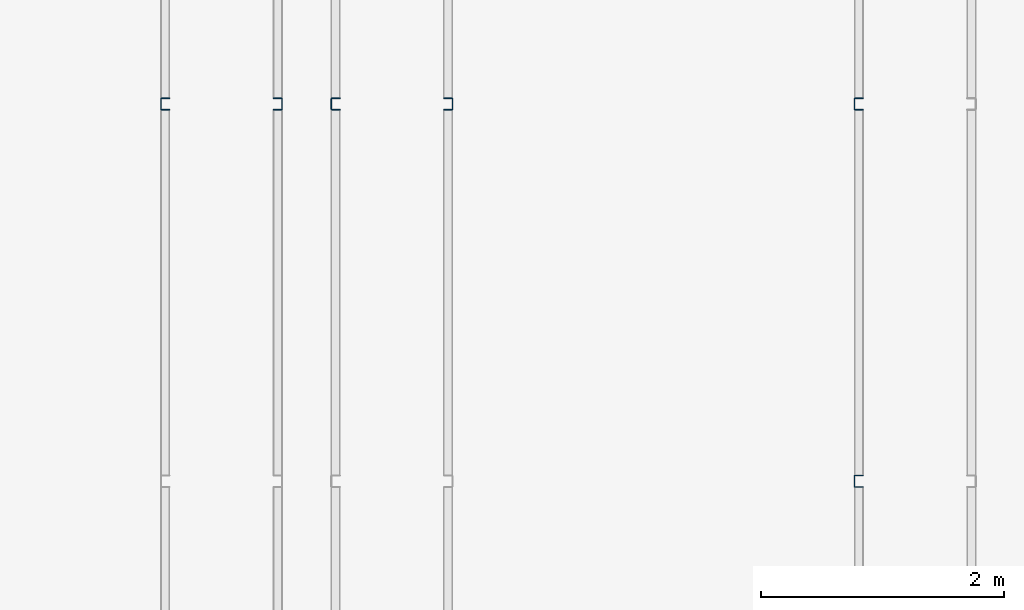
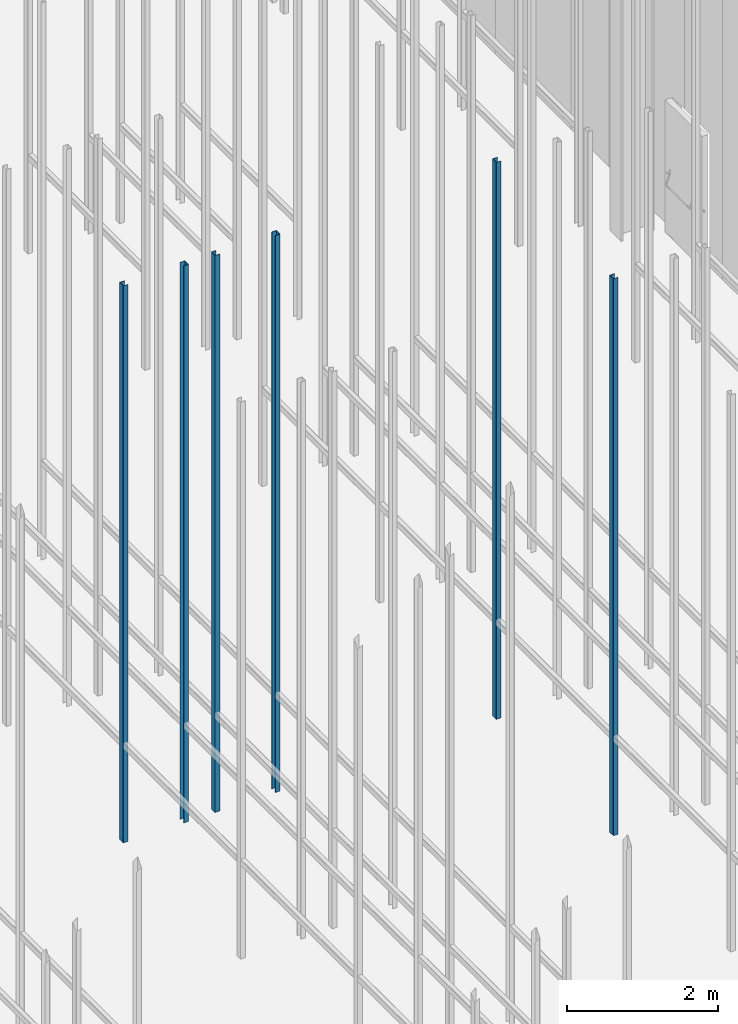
# One storey, part 25 of 302: 6 columns.
"""IFC2X3 building model written with IfcOpenShell, lengths in metres."""

from ifc_helpers import new_model, entity, si_unit, converted_unit, derived_unit, direction, frame, frame_2d, origin, place, context, subcontext, project, spatial, polyline, circle_curve, parameter, trimmed, segment, composite_curve, outline, extrude, source, transform, mapped, material, type_object, type_shapes, element, save


model = new_model("IFC2X3")

# Units and contexts
model_context = context("Model", 3, precision=1e-05, world=origin(), true_north=direction((6.12303176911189e-17, 1.0)))
body_context = subcontext(model_context, "Body", "Model", "MODEL_VIEW")
ifc_project = project(units=[si_unit("LENGTHUNIT", "METRE"), si_unit("AREAUNIT", "SQUARE_METRE"), si_unit("VOLUMEUNIT", "CUBIC_METRE"), converted_unit("PLANEANGLEUNIT", "DEGREE", entity("IfcRatioMeasure", 0.0174532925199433), si_unit("PLANEANGLEUNIT", "RADIAN"), dimensions=[0, 0, 0, 0, 0, 0, 0]), si_unit("MASSUNIT", "GRAM", prefix="KILO"), derived_unit("MASSDENSITYUNIT", [(si_unit("MASSUNIT", "GRAM", prefix="KILO"), 1), (si_unit("LENGTHUNIT", "METRE"), -3)]), derived_unit("MOMENTOFINERTIAUNIT", [(si_unit("LENGTHUNIT", "METRE"), 4)]), si_unit("TIMEUNIT", "SECOND"), si_unit("FREQUENCYUNIT", "HERTZ"), si_unit("THERMODYNAMICTEMPERATUREUNIT", "DEGREE_CELSIUS"), derived_unit("THERMALTRANSMITTANCEUNIT", [(si_unit("MASSUNIT", "GRAM", prefix="KILO"), 1), (si_unit("THERMODYNAMICTEMPERATUREUNIT", "KELVIN"), -1), (si_unit("TIMEUNIT", "SECOND"), -3)]), derived_unit("VOLUMETRICFLOWRATEUNIT", [(si_unit("LENGTHUNIT", "METRE"), 3), (si_unit("TIMEUNIT", "SECOND"), -1)]), si_unit("ELECTRICCURRENTUNIT", "AMPERE"), si_unit("ELECTRICVOLTAGEUNIT", "VOLT"), si_unit("POWERUNIT", "WATT"), si_unit("FORCEUNIT", "NEWTON", prefix="KILO"), si_unit("ILLUMINANCEUNIT", "LUX"), si_unit("LUMINOUSFLUXUNIT", "LUMEN"), si_unit("LUMINOUSINTENSITYUNIT", "CANDELA"), derived_unit("USERDEFINED", [(si_unit("MASSUNIT", "GRAM", prefix="KILO"), -1), (si_unit("LENGTHUNIT", "METRE"), -2), (si_unit("TIMEUNIT", "SECOND"), 3), (si_unit("LUMINOUSFLUXUNIT", "LUMEN"), 1)]), derived_unit("LINEARVELOCITYUNIT", [(si_unit("LENGTHUNIT", "METRE"), 1), (si_unit("TIMEUNIT", "SECOND"), -1)]), si_unit("PRESSUREUNIT", "PASCAL"), derived_unit("USERDEFINED", [(si_unit("LENGTHUNIT", "METRE"), -2), (si_unit("MASSUNIT", "GRAM", prefix="KILO"), 1), (si_unit("TIMEUNIT", "SECOND"), -2)]), derived_unit("LINEARFORCEUNIT", [(si_unit("MASSUNIT", "GRAM", prefix="KILO"), 1), (si_unit("LENGTHUNIT", "METRE"), 1), (si_unit("TIMEUNIT", "SECOND"), -2), (si_unit("LENGTHUNIT", "METRE"), -1)]), derived_unit("PLANARFORCEUNIT", [(si_unit("MASSUNIT", "GRAM", prefix="KILO"), 1), (si_unit("LENGTHUNIT", "METRE"), 1), (si_unit("TIMEUNIT", "SECOND"), -2), (si_unit("LENGTHUNIT", "METRE"), -2)])], contexts=[model_context])

# Site, building, storey
site_placement = place(None, origin())
site = spatial("IfcSite", under=ifc_project, at=site_placement, Name="Default", CompositionType="ELEMENT")
building_placement = place(site_placement, origin())
building = spatial("IfcBuilding", under=site, at=building_placement, CompositionType="ELEMENT")
storey_placement = place(building_placement, frame((0.0, 0.0, -1.3)))
storey = spatial("IfcBuildingStorey", under=building, at=storey_placement, Name="00_EG", CompositionType="ELEMENT", Elevation=-1.3)

# Columns
ifc_material = material(Name="Metall - Baustahl S235")
column_type_1 = type_object("IfcColumnType", Name="Leichter Stahl Schlossschrauben Stütze:C 100", PredefinedType="COLUMN", material=ifc_material)
shared_shape_1 = source(origin(), body_context, "Body", "SweptSolid", [
    extrude(outline(composite_curve([segment(polyline([(-0.0469749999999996, -0.0499999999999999), (0.0214500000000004, -0.0499999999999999)]), True, "CONTINUOUS"), segment(trimmed(circle_curve(frame_2d((0.0214500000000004, -0.0434249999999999), x_axis=(0.0, -1.0)), 0.00657500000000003), [parameter(0.0)], [parameter(89.9999999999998)], True, "PARAMETER"), True, "CONTINUOUS"), segment(polyline([(0.0280250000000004, -0.0434249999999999), (0.0280250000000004, 0.0434250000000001)]), True, "CONTINUOUS"), segment(trimmed(circle_curve(frame_2d((0.0214500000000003, 0.0434250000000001), x_axis=(1.0, 0.0)), 0.0065750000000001), [parameter(0.0)], [parameter(89.9999999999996)], True, "PARAMETER"), True, "CONTINUOUS"), segment(polyline([(0.0214500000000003, 0.0500000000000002), (-0.0469750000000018, 0.0500000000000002)]), True, "CONTINUOUS"), segment(polyline([(-0.0469750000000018, 0.0500000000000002), (-0.0469750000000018, 0.0450000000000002)]), True, "CONTINUOUS"), segment(polyline([(-0.0469750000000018, 0.0450000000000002), (0.0214500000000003, 0.0450000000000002)]), True, "CONTINUOUS"), segment(trimmed(circle_curve(frame_2d((0.0214500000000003, 0.0434249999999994), x_axis=(0.0, 1.0)), 0.00157500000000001), [parameter(269.999999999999)], [parameter(0.0)], True, "PARAMETER"), False, "CONTINUOUS"), segment(polyline([(0.0230250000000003, 0.0434249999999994), (0.0230250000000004, -0.0434249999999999)]), True, "CONTINUOUS"), segment(trimmed(circle_curve(frame_2d((0.0214500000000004, -0.0434249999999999), x_axis=(1.0, 0.0)), 0.00157500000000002), [parameter(270.0)], [parameter(0.0)], True, "PARAMETER"), False, "CONTINUOUS"), segment(polyline([(0.0214500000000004, -0.0449999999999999), (-0.0469749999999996, -0.0449999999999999)]), True, "CONTINUOUS"), segment(polyline([(-0.0469749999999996, -0.0449999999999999), (-0.0469749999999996, -0.0499999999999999)]), True, "CONTINUOUS")], self_intersect=False)), frame((0.0499999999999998, 0.0280250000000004, -0.0300000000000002), z_axis=(0.0, 0.0, 1.0), x_axis=(0.0, -1.0, 0.0)), (0.0, 0.0, 1.0), 9.0),
])
type_shapes(column_type_1, [shared_shape_1])
for number, where, z_axis, x_axis in (
    (1, (-190.790111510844, 39.548088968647, 1.3), (0.0, 0.0, 1.0), (0.0, -1.0, 0.0)),
    (2, (-189.390111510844, 39.548088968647, 1.3), (0.0, 0.0, 1.0), (0.0, -1.0, 0.0)),
    (3, (-185.090111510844, 36.448088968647, 1.3), (0.0, 0.0, 1.0), (0.0, -1.0, 0.0)),
    (4, (-185.090111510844, 39.548088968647, 1.3), (0.0, 0.0, 1.0), (0.0, -1.0, 0.0)),
):
    element("IfcColumn", number, at=place(storey_placement, frame(where, z_axis=z_axis, x_axis=x_axis)), inside=storey, type_object=column_type_1, material=ifc_material, Name="Leichter Stahl Schlossschrauben Stütze:C 100", ObjectType="Leichter Stahl Schlossschrauben Stütze:C 100", context=body_context, shape_type="MappedRepresentation", body=[
        mapped(shared_shape_1, transform((0.0, 0.0, 0.0), scale=1.0)),
    ])
column_type_2 = type_object("IfcColumnType", Name="Leichter Stahl Schlossschrauben Stütze:C 100", PredefinedType="COLUMN", material=ifc_material)
shared_shape_2 = source(origin(), body_context, "Body", "SweptSolid", [
    extrude(outline(composite_curve([segment(polyline([(-0.0214500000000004, -0.0499999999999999), (0.0469749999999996, -0.0499999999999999)]), True, "CONTINUOUS"), segment(polyline([(0.0469749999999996, -0.0499999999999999), (0.0469749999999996, -0.0449999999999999)]), True, "CONTINUOUS"), segment(polyline([(0.0469749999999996, -0.0449999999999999), (-0.0214500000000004, -0.045)]), True, "CONTINUOUS"), segment(trimmed(circle_curve(frame_2d((-0.0214500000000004, -0.043425), x_axis=(0.0, -1.0)), 0.00157500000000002), [parameter(270.0)], [parameter(0.0)], True, "PARAMETER"), False, "CONTINUOUS"), segment(polyline([(-0.0230250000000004, -0.0434249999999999), (-0.0230250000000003, 0.0434249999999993)]), True, "CONTINUOUS"), segment(trimmed(circle_curve(frame_2d((-0.0214500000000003, 0.0434249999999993), x_axis=(-1.0, 0.0)), 0.00157500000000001), [parameter(269.999999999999)], [parameter(0.0)], True, "PARAMETER"), False, "CONTINUOUS"), segment(polyline([(-0.0214500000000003, 0.0450000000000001), (0.0469750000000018, 0.0450000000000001)]), True, "CONTINUOUS"), segment(polyline([(0.0469750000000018, 0.0450000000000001), (0.0469750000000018, 0.0500000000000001)]), True, "CONTINUOUS"), segment(polyline([(0.0469750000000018, 0.0500000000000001), (-0.0214500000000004, 0.0500000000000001)]), True, "CONTINUOUS"), segment(trimmed(circle_curve(frame_2d((-0.0214500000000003, 0.043425), x_axis=(0.0, 1.0)), 0.0065750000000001), [parameter(0.0)], [parameter(89.9999999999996)], True, "PARAMETER"), True, "CONTINUOUS"), segment(polyline([(-0.0280250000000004, 0.043425), (-0.0280250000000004, -0.043425)]), True, "CONTINUOUS"), segment(trimmed(circle_curve(frame_2d((-0.0214500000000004, -0.0434249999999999), x_axis=(-1.0, 0.0)), 0.00657500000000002), [parameter(0.0)], [parameter(89.9999999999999)], True, "PARAMETER"), True, "CONTINUOUS")], self_intersect=False)), frame((0.0499999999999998, -0.0280250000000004, -0.0300000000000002), z_axis=(0.0, 0.0, 1.0), x_axis=(0.0, -1.0, 0.0)), (0.0, 0.0, 1.0), 9.0),
])
type_shapes(column_type_2, [shared_shape_2])
for number, where, z_axis, x_axis in (
    (5, (-189.790111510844, 39.548088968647, 1.3), (0.0, 0.0, 1.0), (0.0, -1.0, 0.0)),
    (6, (-188.390111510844, 39.548088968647, 1.3), (0.0, 0.0, 1.0), (0.0, -1.0, 0.0)),
):
    element("IfcColumn", number, at=place(storey_placement, frame(where, z_axis=z_axis, x_axis=x_axis)), inside=storey, type_object=column_type_2, material=ifc_material, Name="Leichter Stahl Schlossschrauben Stütze:C 100", ObjectType="Leichter Stahl Schlossschrauben Stütze:C 100", context=body_context, shape_type="MappedRepresentation", body=[
        mapped(shared_shape_2, transform((0.0, 0.0, 0.0), scale=1.0)),
    ])

save(model, "model.ifc")
